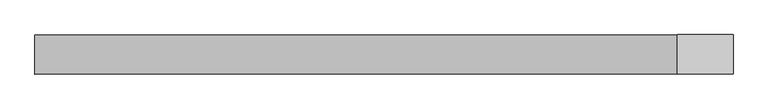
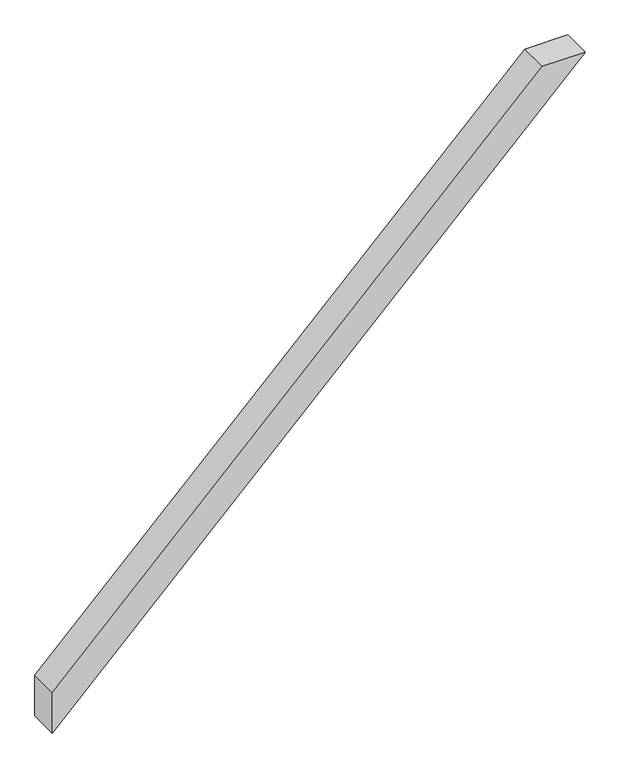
"""IFC4 building model written with IfcOpenShell, lengths in millimetres: proxy geometry, Modelos genéricos 81 : Modelos genéricos 23."""

from ifc_helpers import new_model, si_unit, frame, origin, place, context, project, spatial, polyline, outline, extrude, source, transform, mapped, element, save


def generic_models_40f35aaa(model_context):
    return source(origin(), model_context, "Body", "SweptSolid", [
        extrude(outline(polyline([(4220.0, -606.7628093), (4220.0, -691.615623), (3244.8528137, -1666.7628093), (3160.0, -1666.7628093), (4220.0, -606.7628093)])), frame((0.0, 1918.6238165, 0.0), z_axis=(0.0, 1.0, 0.0), x_axis=(0.0, 0.0, 1.0)), (0.0, 0.0, 1.0), 60.0),
    ])


if __name__ == "__main__":
    model = new_model("IFC4")
    model_context = context("Model", 3, world=origin())
    ifc_project = project(units=[si_unit("LENGTHUNIT", "METRE", prefix="MILLI")], contexts=[model_context])
    site = spatial("IfcSite", under=ifc_project)
    building = spatial("IfcBuilding", under=site)
    placement = place(None, origin())
    generic_models_shape = generic_models_40f35aaa(model_context)
    element("IfcBuildingElementProxy", 1, Name="Modelos genéricos 81 : Modelos genéricos 23", ObjectType="Modelos genéricos 81 : Modelos genéricos 23", at=placement, inside=building, context=model_context, shape_type="MappedRepresentation", body=[
        mapped(generic_models_shape, transform((0.0, 0.0, 0.0), x_axis=(1.0, 0.0, 0.0), y_axis=(0.0, 1.0, 0.0), z_axis=(0.0, 0.0, 1.0))),
    ])
    save(model, "model.ifc")
